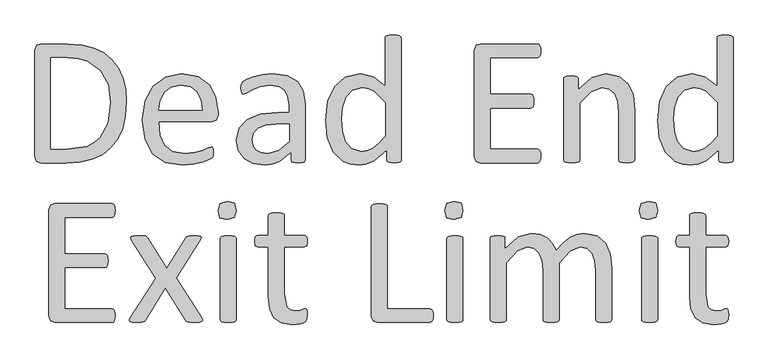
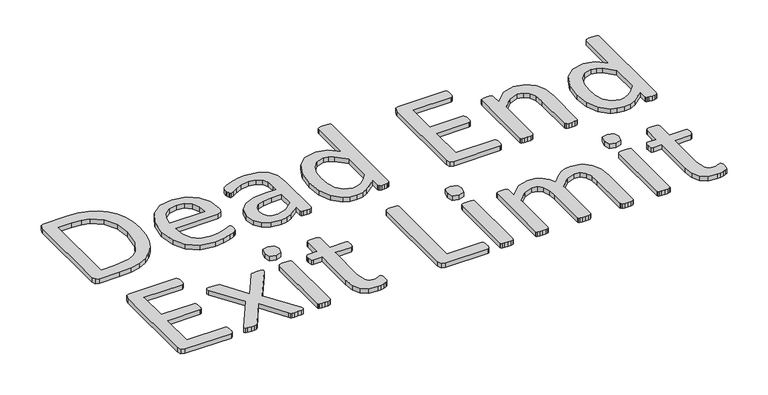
"""IFC4 building model written with IfcOpenShell, lengths in millimetres: proxy geometry, Marker-Dead End Exit Limit : Dead End Exit Limit Line."""

from ifc_helpers import new_model, si_unit, origin, origin_with_axes, place, context, project, spatial, polyline, outline, extrude, source, transform, mapped, element, save


def generic_models_6ec18312(model_context):
    return source(origin(), model_context, "Body", "SweptSolid", [
        extrude(outline(polyline([(4117.6622181, 150.5609909), (4115.9960168, 126.1485024), (4110.9974128, 105.0231804), (4102.7945754, 87.2151824), (4091.515674, 72.7546657), (4077.251181, 61.5737762), (4060.091569, 53.6046594), (4039.6975662, 48.8322365), (4015.7299007, 47.2414289), (3973.2078393, 47.2414289), (3966.422404, 49.6540281), (3963.2558675, 58.0981254), (3963.2558675, 237.1129882), (3966.422404, 245.5570855), (3973.2078393, 247.9696848), (4018.6853348, 247.9696848), (4042.7283939, 246.2808653), (4062.7454282, 241.2144069), (4079.294351, 232.9889514), (4092.933076, 221.8231406), (4103.6389851, 207.8451438), (4111.3894601, 191.1831304), (4116.0940286, 172.0255847), (4117.6622181, 150.5609909)]), holes=[polyline([(4090.6411068, 149.3546913), (4086.5698456, 179.3312367), (4073.8433846, 203.336599), (4051.8887316, 219.139124), (4036.6818171, 223.3913301), (4017.6599801, 224.8087322), (3990.2769788, 224.8087322), (3990.2769788, 70.4023815), (4017.961555, 70.4023815), (4050.6221171, 75.167265), (4062.8208219, 81.1912237), (4072.81803, 89.7333328), (4086.1777982, 114.341845), (4090.6411068, 149.3546913)])]), origin_with_axes(), (0.0, 0.0, 1.0), 10.0),
        extrude(outline(polyline([(4272.0685688, 127.7619282), (4269.0829773, 119.2575159), (4262.2372269, 116.7242867), (4171.7044409, 116.7242867), (4173.9662526, 94.4077438), (4181.4754677, 77.3989193), (4195.1669684, 66.4819078), (4215.7946918, 62.682064), (4232.9241463, 64.4613559), (4245.9521821, 68.4723021), (4254.9692718, 72.4832483), (4260.3071476, 74.2625403), (4262.176912, 73.7498629), (4263.473684, 72.2419884), (4264.1371488, 69.4373418), (4264.3482513, 65.0343482), (4264.1974638, 61.8074967), (4263.8054164, 59.36474), (4263.0514792, 57.4045032), (4261.6943921, 55.7458412), (4256.7787212, 52.8205646), (4246.1934421, 48.6588309), (4231.1146969, 45.0097746), (4212.8392577, 43.3812701), (4183.3753896, 48.2064686), (4162.1143589, 62.561434), (4149.0863231, 86.4763239), (4144.6833295, 119.8606657), (4149.2974255, 152.4307553), (4162.5968788, 176.9186375), (4183.5864921, 192.38943), (4211.1504383, 197.7876208), (4238.8953294, 192.570375), (4257.7437609, 178.5169845), (4268.6004574, 157.7987886), (4272.0685688, 132.4061817), (4272.0685688, 127.7619282)]), holes=[polyline([(4245.0474574, 136.0250805), (4243.0947599, 153.7350668), (4236.3922577, 167.1777681), (4225.1058169, 175.6595622), (4209.4013038, 178.486827), (4193.3273615, 174.9885581), (4181.7770426, 165.6698936), (4174.5694024, 152.1291804), (4171.7044409, 136.0250805), (4245.0474574, 136.0250805)])]), origin_with_axes(), (0.0, 0.0, 1.0), 10.0),
        extrude(outline(polyline([(4418.7546019, 51.8856824), (4417.4276724, 49.0810358), (4413.8087735, 47.6937913), (4407.0534957, 47.2414289), (4400.2077454, 47.6937913), (4396.498374, 49.0810358), (4395.3523894, 51.8856824), (4395.3523894, 65.758128), (4375.0262409, 49.7143431), (4363.4759221, 44.9645384), (4351.2621385, 43.3812701), (4331.3280374, 46.2462317), (4316.1588197, 54.5395416), (4306.4179503, 67.8691523), (4302.9498389, 85.8430166), (4307.7448799, 106.289795), (4321.4966955, 120.7050754), (4343.421191, 129.2999602), (4372.6136417, 132.1649218), (4391.7334906, 132.1649218), (4391.7334906, 143.6850831), (4390.0446711, 158.7638283), (4384.6163228, 169.6808398), (4374.9357684, 176.2551727), (4360.3093856, 178.486827), (4343.5719785, 176.0742277), (4330.6042576, 170.7665094), (4321.2855931, 165.4587911), (4315.7366148, 163.0461919), (4313.5652755, 163.6794992), (4311.9669286, 165.6095786), (4310.9717314, 168.9269025), (4310.6701565, 173.3600536), (4311.2129913, 179.6931266), (4313.8668504, 184.1262777), (4321.1046481, 188.6499012), (4332.9263844, 193.1132098), (4347.5527672, 196.4606912), (4363.5663946, 197.7876208), (4389.2002614, 194.3798244), (4406.2995584, 184.4278526), (4415.7991679, 168.1729653), (4418.7546019, 145.4945325), (4418.7546019, 51.8856824)]), holes=[polyline([(4391.7334906, 112.8641279), (4370.2613574, 112.8641279), (4352.3478081, 111.084836), (4339.7118197, 105.8374327), (4332.3232345, 97.5139653), (4329.9709503, 86.3255364), (4331.6597698, 76.584667), (4336.7262281, 69.0754519), (4344.838593, 64.280411), (4355.6651321, 62.682064), (4374.0008862, 67.7786798), (4391.7334906, 83.3701024), (4391.7334906, 112.8641279)])]), origin_with_axes(), (0.0, 0.0, 1.0), 10.0),
        extrude(outline(polyline([(4580.8812701, 52.0666274), (4580.3082778, 49.8651306), (4578.3480409, 48.3874135), (4574.6989846, 47.5430038), (4569.1801639, 47.2414289), (4563.4502407, 47.5430038), (4559.7107119, 48.3270986), (4557.5996876, 49.6841856), (4556.9362228, 51.7047375), (4556.9362228, 68.834192), (4534.5292074, 50.1063905), (4522.3681995, 45.0625502), (4509.1064431, 43.3812701), (4495.143525, 44.8816053), (4483.4122613, 49.3826107), (4466.1923343, 65.6073405), (4456.5419374, 89.6730178), (4453.4960308, 118.774996), (4457.2958746, 151.4958731), (4468.514461, 176.4059601), (4486.9105302, 192.2386426), (4512.303137, 197.7876208), (4534.2276325, 192.38943), (4553.8601588, 176.5567476), (4553.8601588, 258.4041764), (4554.4331511, 260.5152008), (4556.6346479, 262.0833903), (4560.7963816, 263.0182725), (4567.1897695, 263.4103198), (4573.8847324, 263.0182725), (4577.9559936, 262.0833903), (4580.1574904, 260.5453582), (4580.8812701, 258.4644914), (4580.8812701, 52.0666274)]), holes=[polyline([(4553.8601588, 149.0531164), (4534.49905, 168.0824928), (4524.9542043, 172.9906243), (4515.0173112, 174.6266682), (4499.0338413, 170.0427297), (4488.3580897, 157.949576), (4482.3869066, 140.9407515), (4480.5171422, 121.6701151), (4482.0853317, 101.2836516), (4487.5438375, 83.6113623), (4497.8576992, 71.2166337), (4513.9919565, 66.5422227), (4523.4614085, 67.8993098), (4532.8102305, 72.3927759), (4542.7923598, 80.5352983), (4553.8601588, 92.8998693), (4553.8601588, 149.0531164)])]), origin_with_axes(), (0.0, 0.0, 1.0), 10.0),
        extrude(outline(polyline([(4816.3509549, 58.7615902), (4816.04938, 53.6348169), (4814.9637103, 49.9857605), (4813.1542609, 47.8747362), (4810.9226066, 47.2414289), (4714.3583225, 47.2414289), (4707.6030446, 49.6540281), (4704.4063507, 58.0981254), (4704.4063507, 237.1129882), (4707.6332021, 245.5570855), (4714.4789524, 247.9696848), (4810.9829216, 247.9696848), (4813.2748909, 247.3363775), (4814.9335529, 245.2253531), (4815.9589075, 241.5762968), (4816.3509549, 236.1479485), (4815.9589075, 231.0513327), (4814.9335529, 227.4625913), (4813.2748909, 225.4420395), (4810.9829216, 224.8087322), (4731.427462, 224.8087322), (4731.427462, 163.0461919), (4799.4627603, 163.0461919), (4801.6944146, 162.2922546), (4803.443549, 160.2113878), (4804.4689037, 156.5623315), (4804.7704786, 151.0435107), (4804.4689037, 145.8865799), (4803.443549, 142.388311), (4801.6944146, 140.4582316), (4799.4627603, 139.8852393), (4731.427462, 139.8852393), (4731.427462, 70.4023815), (4810.9226066, 70.4023815), (4813.1844184, 69.7690742), (4814.9637103, 67.7485223), (4816.04938, 64.159781), (4816.3509549, 58.7615902)])), origin_with_axes(), (0.0, 0.0, 1.0), 10.0),
        extrude(outline(polyline([(4974.6174643, 52.0063124), (4973.9539995, 49.955603), (4971.8128177, 48.477886), (4967.7415565, 47.5430038), (4961.1672236, 47.2414289), (4954.4722608, 47.5430038), (4950.4009996, 48.4477285), (4948.2598178, 49.8952881), (4947.596353, 52.0063124), (4947.596353, 132.5871266), (4945.817061, 151.5260306), (4940.6601302, 163.9207591), (4931.8843005, 171.8823366), (4919.429257, 174.6266682), (4901.1236603, 167.9015478), (4881.9736539, 148.1483917), (4881.9736539, 52.0063124), (4881.3101891, 49.8952881), (4879.1690073, 48.4477285), (4875.0977461, 47.5430038), (4868.4027833, 47.2414289), (4861.8284504, 47.5430038), (4857.6667167, 48.4477285), (4855.5255349, 49.8952881), (4854.9525426, 51.9459974), (4854.9525426, 189.2228935), (4855.4350624, 191.2736029), (4857.3952993, 192.7814774), (4861.1649856, 193.6862021), (4867.2567986, 193.927462), (4873.2279817, 193.6862021), (4876.9071956, 192.7814774), (4878.8071174, 191.2736029), (4879.3801098, 189.2228935), (4879.3801098, 171.0680843), (4902.4505899, 191.3640754), (4925.6417, 197.7876208), (4948.6820226, 193.0830523), (4963.8210828, 180.5073788), (4972.1143926, 162.0811522), (4974.6174643, 136.6885453), (4974.6174643, 52.0063124)])), origin_with_axes(), (0.0, 0.0, 1.0), 10.0),
        extrude(outline(polyline([(5140.6042913, 52.0666274), (5140.031299, 49.8651306), (5138.0710621, 48.3874135), (5134.4220058, 47.5430038), (5128.903185, 47.2414289), (5123.1732619, 47.5430038), (5119.4337331, 48.3270986), (5117.3227087, 49.6841856), (5116.659244, 51.7047375), (5116.659244, 68.834192), (5094.2522286, 50.1063905), (5082.0912206, 45.0625502), (5068.8294642, 43.3812701), (5054.8665462, 44.8816053), (5043.1352824, 49.3826107), (5025.9153554, 65.6073405), (5016.2649585, 89.6730178), (5013.219052, 118.774996), (5017.0188958, 151.4958731), (5028.2374822, 176.4059601), (5046.6335513, 192.2386426), (5072.0261582, 197.7876208), (5093.9506537, 192.38943), (5113.5831799, 176.5567476), (5113.5831799, 258.4041764), (5114.1561723, 260.5152008), (5116.357669, 262.0833903), (5120.5194027, 263.0182725), (5126.9127907, 263.4103198), (5133.6077535, 263.0182725), (5137.6790147, 262.0833903), (5139.8805115, 260.5453582), (5140.6042913, 258.4644914), (5140.6042913, 52.0666274)]), holes=[polyline([(5113.5831799, 149.0531164), (5094.2220711, 168.0824928), (5084.6772254, 172.9906243), (5074.7403323, 174.6266682), (5058.7568625, 170.0427297), (5048.0811109, 157.949576), (5042.1099278, 140.9407515), (5040.2401634, 121.6701151), (5041.8083529, 101.2836516), (5047.2668586, 83.6113623), (5057.5807203, 71.2166337), (5073.7149777, 66.5422227), (5083.1844296, 67.8993098), (5092.5332517, 72.3927759), (5102.515381, 80.5352983), (5113.5831799, 92.8998693), (5113.5831799, 149.0531164)])]), origin_with_axes(), (0.0, 0.0, 1.0), 10.0),
        extrude(outline(polyline([(4098.3614243, -210.7212676), (4098.0598494, -215.8480409), (4096.9741797, -219.4970973), (4095.1647303, -221.6081216), (4092.933076, -222.2414289), (3996.3687919, -222.2414289), (3989.613514, -219.8288297), (3986.4168201, -211.3847324), (3986.4168201, -32.3698696), (3989.6436715, -23.9257723), (3996.4894218, -21.513173), (4092.993391, -21.513173), (4095.2853603, -22.1464803), (4096.9440223, -24.2575047), (4097.9693769, -27.906561), (4098.3614243, -33.3349093), (4097.9693769, -38.4315251), (4096.9440223, -42.0202665), (4095.2853603, -44.0408183), (4092.993391, -44.6741256), (4013.4379314, -44.6741256), (4013.4379314, -106.4366659), (4081.4732297, -106.4366659), (4083.704884, -107.1906032), (4085.4540184, -109.27147), (4086.4793731, -112.9205263), (4086.780948, -118.4393471), (4086.4793731, -123.5962779), (4085.4540184, -127.0945468), (4083.704884, -129.0246262), (4081.4732297, -129.5976185), (4013.4379314, -129.5976185), (4013.4379314, -199.0804763), (4092.933076, -199.0804763), (4095.1948878, -199.7137836), (4096.9741797, -201.7343355), (4098.0598494, -205.3230768), (4098.3614243, -210.7212676)])), origin_with_axes(), (0.0, 0.0, 1.0), 10.0),
        extrude(outline(polyline([(4244.8061975, -214.6417413), (4246.0124971, -218.2003252), (4244.5649376, -220.5526094), (4240.101629, -221.8493815), (4232.2606815, -222.2414289), (4224.9324114, -222.000169), (4220.6198902, -221.2462317), (4218.146976, -219.8891447), (4216.6391015, -217.9590653), (4183.2849172, -163.5549527), (4150.0513628, -217.9590653), (4148.5736458, -219.8891447), (4146.1007315, -221.2462317), (4141.8786829, -222.000169), (4134.9123026, -222.2414289), (4127.553875, -221.8493815), (4123.3921413, -220.5526094), (4122.1556842, -218.2003252), (4123.6334012, -214.6417413), (4166.8792424, -147.6921127), (4125.9253705, -83.1550833), (4124.6285984, -79.5964995), (4126.015843, -77.1537428), (4130.509309, -75.8569707), (4138.4708865, -75.5553958), (4145.6483692, -75.7966557), (4149.9005753, -76.490278), (4152.2227021, -77.6965776), (4153.6099466, -79.5361845), (4185.2753115, -130.6229732), (4217.4231963, -79.5361845), (4218.8104408, -77.847365), (4220.9214651, -76.5505929), (4224.6308365, -75.7966557), (4231.1750119, -75.5553958), (4238.5334395, -75.8569707), (4242.7554882, -77.0029553), (4243.9919453, -79.3552396), (4242.4539133, -83.1550833), (4201.8016162, -146.908018), (4244.8061975, -214.6417413)])), origin_with_axes(), (0.0, 0.0, 1.0), 10.0),
        extrude(outline(polyline([(4302.9498389, -217.5368604), (4302.2863741, -219.5875697), (4300.1451923, -221.0351293), (4296.0739311, -221.939854), (4289.3789683, -222.2414289), (4282.8046354, -221.939854), (4278.6429017, -221.0351293), (4276.5017199, -219.5875697), (4275.9287276, -217.5368604), (4275.9287276, -80.2599643), (4276.5017199, -78.2997274), (4278.6429017, -76.7616954), (4282.8046354, -75.8569707), (4289.3789683, -75.5553958), (4296.0739311, -75.8569707), (4300.1451923, -76.7616954), (4302.2863741, -78.2997274), (4302.9498389, -80.2599643), (4302.9498389, -217.5368604)])), origin_with_axes(), (0.0, 0.0, 1.0), 10.0),
        extrude(outline(polyline([(4302.9498389, -32.9127044), (4299.632515, -45.2471179), (4287.3282589, -48.5342844), (4275.3255778, -45.3375904), (4272.0685688, -33.2745943), (4275.3858927, -20.9401807), (4287.6901488, -17.6530143), (4299.69283, -20.8497082), (4302.9498389, -32.9127044)])), origin_with_axes(), (0.0, 0.0, 1.0), 10.0),
        extrude(outline(polyline([(4422.6147607, -208.3689833), (4422.0116109, -215.9083559), (4420.172004, -220.0097746), (4416.4927902, -222.4826888), (4410.9136544, -224.3826107), (4404.2488491, -225.6190678), (4397.2221538, -226.1015877), (4378.8562422, -223.1763111), (4366.3408837, -214.3401664), (4359.223716, -199.3518937), (4356.9920617, -177.9099181), (4356.9920617, -94.8561896), (4338.6563075, -94.8561896), (4335.1278812, -92.5943778), (4333.8311091, -85.2661077), (4334.192999, -80.7726416), (4335.1278812, -77.7267351), (4336.6659132, -76.0379156), (4338.7769375, -75.5553958), (4356.9920617, -75.5553958), (4356.9920617, -41.9599515), (4357.565054, -39.9393996), (4359.7062358, -38.2807377), (4363.8679695, -37.255383), (4370.4423024, -36.9538081), (4377.1372652, -37.255383), (4381.2085264, -38.2807377), (4383.3497082, -39.9393996), (4384.013173, -41.9599515), (4384.013173, -75.5553958), (4417.7895622, -75.5553958), (4419.8101141, -76.0379156), (4421.3481461, -77.7267351), (4422.3131858, -80.7726416), (4422.6147607, -85.2661077), (4421.2878311, -92.5943778), (4417.7895622, -94.8561896), (4384.013173, -94.8561896), (4384.013173, -173.5069245), (4388.0241193, -195.4917349), (4393.6258731, -201.07841), (4402.4092422, -202.9406351), (4408.4105827, -202.2470128), (4413.0849937, -200.7994533), (4416.6134201, -199.3217362), (4419.2371218, -198.5979565), (4421.649721, -200.4677209), (4422.3131858, -203.4834699), (4422.6147607, -208.3689833)])), origin_with_axes(), (0.0, 0.0, 1.0), 10.0),
        extrude(outline(polyline([(4634.9234929, -210.6006376), (4634.621918, -215.787726), (4633.6267208, -219.3764673), (4631.9077438, -221.5478066), (4629.4951446, -222.2414289), (4540.651178, -222.2414289), (4533.8959001, -219.8589872), (4530.6992062, -211.4450473), (4530.6992062, -26.4590015), (4531.3325135, -24.2876621), (4533.5340103, -22.8401026), (4537.7560589, -21.9052204), (4544.2097618, -21.513173), (4550.7237798, -21.9052204), (4554.8855134, -22.8401026), (4557.0870102, -24.2876621), (4557.7203175, -26.4590015), (4557.7203175, -199.0804763), (4629.4951446, -199.0804763), (4631.9077438, -199.7740986), (4633.6267208, -201.7946504), (4634.621918, -205.2929193), (4634.9234929, -210.6006376)])), origin_with_axes(), (0.0, 0.0, 1.0), 10.0),
        extrude(outline(polyline([(4685.1055568, -217.5368604), (4684.442092, -219.5875697), (4682.3009102, -221.0351293), (4678.229649, -221.939854), (4671.5346862, -222.2414289), (4664.9603533, -221.939854), (4660.7986196, -221.0351293), (4658.6574378, -219.5875697), (4658.0844455, -217.5368604), (4658.0844455, -80.2599643), (4658.6574378, -78.2997274), (4660.7986196, -76.7616954), (4664.9603533, -75.8569707), (4671.5346862, -75.5553958), (4678.229649, -75.8569707), (4682.3009102, -76.7616954), (4684.442092, -78.2997274), (4685.1055568, -80.2599643), (4685.1055568, -217.5368604)])), origin_with_axes(), (0.0, 0.0, 1.0), 10.0),
        extrude(outline(polyline([(4685.1055568, -32.9127044), (4681.7882329, -45.2471179), (4669.4839768, -48.5342844), (4657.4812957, -45.3375904), (4654.2242867, -33.2745943), (4657.5416106, -20.9401807), (4669.8458667, -17.6530143), (4681.8485479, -20.8497082), (4685.1055568, -32.9127044)])), origin_with_axes(), (0.0, 0.0, 1.0), 10.0),
        extrude(outline(polyline([(4936.0158767, -217.4765454), (4935.3524119, -219.5272548), (4933.2413876, -221.0049718), (4929.1701264, -221.939854), (4922.6862659, -222.2414289), (4915.9913031, -221.939854), (4911.8597269, -221.0351293), (4909.6582301, -219.5875697), (4908.9947653, -217.4765454), (4908.9947653, -133.8799821), (4907.5170483, -117.9568272), (4902.8124798, -105.5620987), (4894.5493274, -97.6005212), (4882.7577487, -94.8561896), (4865.8997116, -101.58131), (4847.232225, -121.3344661), (4847.232225, -217.4765454), (4846.5687602, -219.5875697), (4844.3672634, -221.0351293), (4840.2055298, -221.939854), (4833.6613544, -222.2414289), (4827.1774939, -221.939854), (4822.9252878, -221.0351293), (4820.784106, -219.5875697), (4820.2111137, -217.4765454), (4820.2111137, -133.8799821), (4818.5826092, -117.9568272), (4813.7272532, -105.5620987), (4805.5847308, -97.6005212), (4793.9137821, -94.8561896), (4776.99543, -101.58131), (4758.4485734, -121.3344661), (4758.4485734, -217.4765454), (4757.7851086, -219.5875697), (4755.6439268, -221.0351293), (4751.5726656, -221.939854), (4744.8777027, -222.2414289), (4738.3033698, -221.939854), (4734.1416362, -221.0351293), (4732.0004544, -219.5875697), (4731.427462, -217.5368604), (4731.427462, -80.2599643), (4731.9099819, -78.2092549), (4733.8702188, -76.7013804), (4737.639905, -75.7966557), (4743.7317181, -75.5553958), (4749.7029012, -75.7966557), (4753.382115, -76.7013804), (4755.2820369, -78.2092549), (4755.8550292, -80.2599643), (4755.8550292, -98.4147735), (4778.2017296, -78.1187824), (4800.0659101, -71.695237), (4815.2652852, -73.8062613), (4827.1473365, -79.7171294), (4835.9231661, -88.794534), (4841.9848217, -100.5861128), (4855.0128575, -87.1057146), (4866.8949088, -78.1790974), (4878.0230227, -73.233269), (4888.9098767, -71.695237), (4911.1661046, -76.3998055), (4925.7321725, -88.975479), (4933.6635924, -107.4017056), (4936.0158767, -129.7182485), (4936.0158767, -217.4765454)])), origin_with_axes(), (0.0, 0.0, 1.0), 10.0),
        extrude(outline(polyline([(5013.219052, -32.9127044), (5009.9017281, -45.2471179), (4997.597472, -48.5342844), (4985.5947908, -45.3375904), (4982.3377819, -33.2745943), (4985.6551058, -20.9401807), (4997.9593619, -17.6530143), (5009.962043, -20.8497082), (5013.219052, -32.9127044)])), origin_with_axes(), (0.0, 0.0, 1.0), 10.0),
        extrude(outline(polyline([(5013.219052, -217.5368604), (5012.5555872, -219.5875697), (5010.4144054, -221.0351293), (5006.3431442, -221.939854), (4999.6481813, -222.2414289), (4993.0738484, -221.939854), (4988.9121148, -221.0351293), (4986.770933, -219.5875697), (4986.1979406, -217.5368604), (4986.1979406, -80.2599643), (4986.770933, -78.2997274), (4988.9121148, -76.7616954), (4993.0738484, -75.8569707), (4999.6481813, -75.5553958), (5006.3431442, -75.8569707), (5010.4144054, -76.7616954), (5012.5555872, -78.2997274), (5013.219052, -80.2599643), (5013.219052, -217.5368604)])), origin_with_axes(), (0.0, 0.0, 1.0), 10.0),
        extrude(outline(polyline([(5132.8839738, -208.3689833), (5132.280824, -215.9083559), (5130.441217, -220.0097746), (5126.7620032, -222.4826888), (5121.1828675, -224.3826107), (5114.5180621, -225.6190678), (5107.4913669, -226.1015877), (5089.1254552, -223.1763111), (5076.6100967, -214.3401664), (5069.492929, -199.3518937), (5067.2612747, -177.9099181), (5067.2612747, -94.8561896), (5048.9255206, -94.8561896), (5045.3970942, -92.5943778), (5044.1003221, -85.2661077), (5044.462212, -80.7726416), (5045.3970942, -77.7267351), (5046.9351262, -76.0379156), (5049.0461506, -75.5553958), (5067.2612747, -75.5553958), (5067.2612747, -41.9599515), (5067.8342671, -39.9393996), (5069.9754489, -38.2807377), (5074.1371825, -37.255383), (5080.7115154, -36.9538081), (5087.4064783, -37.255383), (5091.4777395, -38.2807377), (5093.6189213, -39.9393996), (5094.2823861, -41.9599515), (5094.2823861, -75.5553958), (5128.0587753, -75.5553958), (5130.0793272, -76.0379156), (5131.6173592, -77.7267351), (5132.5823989, -80.7726416), (5132.8839738, -85.2661077), (5131.5570442, -92.5943778), (5128.0587753, -94.8561896), (5094.2823861, -94.8561896), (5094.2823861, -173.5069245), (5098.2933323, -195.4917349), (5103.8950862, -201.07841), (5112.6784552, -202.9406351), (5118.6797958, -202.2470128), (5123.3542068, -200.7994533), (5126.8826332, -199.3217362), (5129.5063348, -198.5979565), (5131.9189341, -200.4677209), (5132.5823989, -203.4834699), (5132.8839738, -208.3689833)])), origin_with_axes(), (0.0, 0.0, 1.0), 10.0),
    ])


if __name__ == "__main__":
    model = new_model("IFC4")
    model_context = context("Model", 3, world=origin())
    ifc_project = project(units=[si_unit("LENGTHUNIT", "METRE", prefix="MILLI")], contexts=[model_context])
    site = spatial("IfcSite", under=ifc_project)
    building = spatial("IfcBuilding", under=site)
    placement = place(None, origin())
    generic_models_shape = generic_models_6ec18312(model_context)
    element("IfcBuildingElementProxy", 1, Name="Marker-Dead End Exit Limit : Dead End Exit Limit Line", ObjectType="Marker-Dead End Exit Limit : Dead End Exit Limit Line", at=placement, inside=building, context=model_context, shape_type="MappedRepresentation", body=[
        mapped(generic_models_shape, transform((0.0, 0.0, 0.0), x_axis=(1.0, 0.0, 0.0), y_axis=(0.0, 1.0, 0.0), z_axis=(0.0, 0.0, 1.0))),
    ])
    save(model, "model.ifc")
